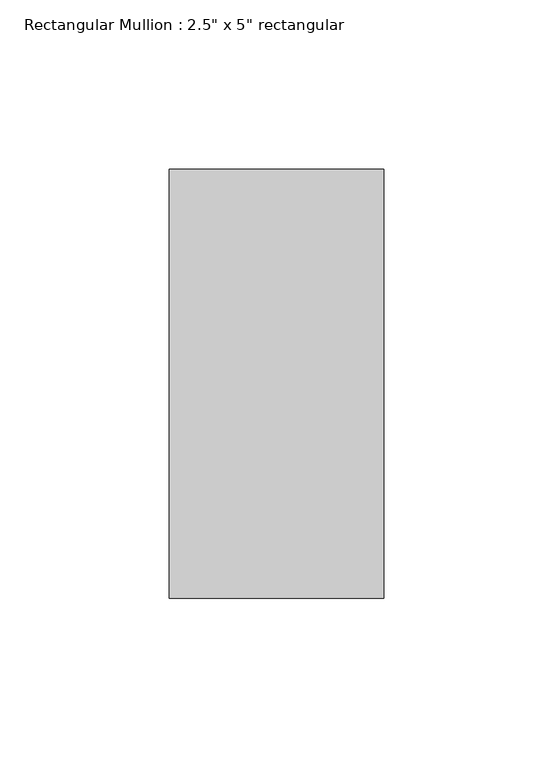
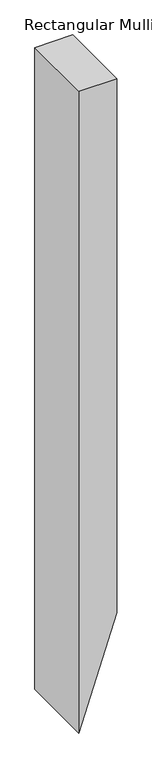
"""IFC4 building model written with IfcOpenShell, lengths in millimetres: member geometry."""

from ifc_helpers import new_model, si_unit, frame, origin, place, context, project, spatial, polyline, outline, extrude, source, transform, mapped, element, save


def member_474f9ece(model_context):
    return source(origin(), model_context, "Body", "SweptSolid", [
        extrude(outline(polyline([(0.0, 31.75), (0.0, -31.75), (-1132.6953686, -31.75), (-942.1953686, 31.75), (0.0, 31.75)])), frame((0.0, -63.5, 0.0), z_axis=(0.0, 1.0, 0.0), x_axis=(0.0, 0.0, 1.0)), (0.0, 0.0, 1.0), 127.0),
    ])


if __name__ == "__main__":
    model = new_model("IFC4")
    model_context = context("Model", 3, world=origin())
    ifc_project = project(units=[si_unit("LENGTHUNIT", "METRE", prefix="MILLI")], contexts=[model_context])
    site = spatial("IfcSite", under=ifc_project)
    building = spatial("IfcBuilding", under=site)
    placement = place(None, origin())
    member_shape = member_474f9ece(model_context)
    element("IfcMember", 1, ObjectType="Rectangular Mullion : 2.5\" x 5\" rectangular", at=placement, inside=building, context=model_context, shape_type="MappedRepresentation", body=[
        mapped(member_shape, transform((0.0, 0.0, 0.0), x_axis=(1.0, 0.0, 0.0), y_axis=(0.0, 1.0, 0.0), z_axis=(0.0, 0.0, 1.0))),
    ])
    save(model, "model.ifc")
